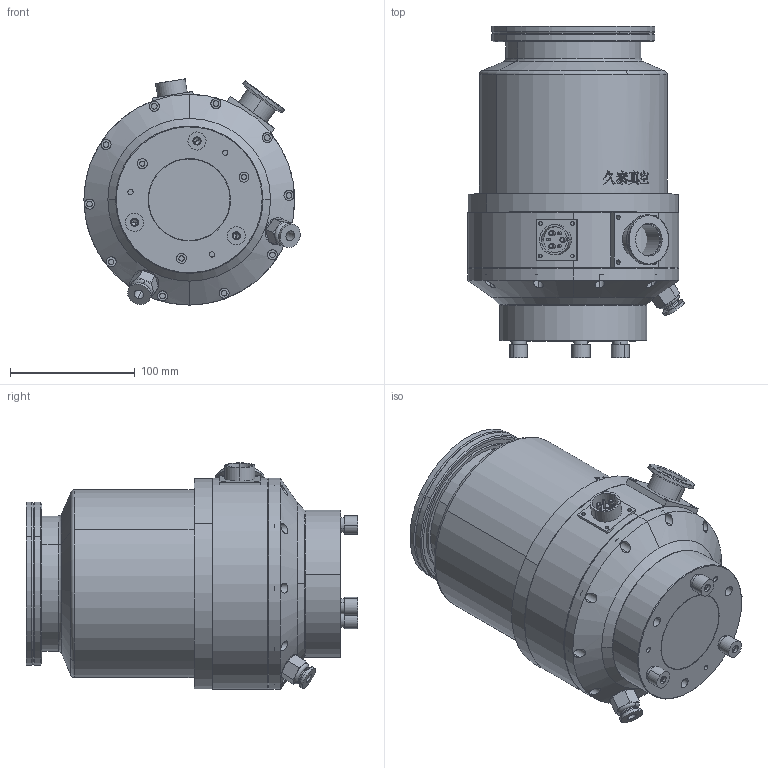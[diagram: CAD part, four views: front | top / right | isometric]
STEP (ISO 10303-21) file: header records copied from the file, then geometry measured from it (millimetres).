
FILE_DESCRIPTION (( 'STEP AP203' ), '1' );
FILE_NAME ('ISO300SJ-00WË®½º.STEP', '2025-03-29T08:16:55', ( 'User' ), ( 'China' ), 'SwSTEP 2.0', 'SolidWorks 2016', '' );
FILE_SCHEMA (( 'CONFIG_CONTROL_DESIGN' ));
Length unit declared in the file: millimetre
Products named in the file (11): JTFB300J-05-01-01B-B｣ﾗ_1; JTFB300J-05-01-00｣ﾗ_1; JTFB300J-05-00｣ﾗ_1; JTFB300-20_1_1_1; JTFB300-21_1_1_1; JTFB300-22｣ﾗ_1_1_1; JTFB300-23_1_1_1; ｵ釀ｴｽﾓﾍｷ_1_1_1; JTFB300S-03W_1_1_1; 水嘴_1_1_1; ISO300SJ-00W阨蝶
Assembly tree (15 placements, depth 4):
  ISO300SJ-00W阨蝶
    JTFB300J-05-00｣ﾗ_1
      JTFB300J-05-01-00｣ﾗ_1
        JTFB300J-05-01-01B-B｣ﾗ_1
    JTFB300-20_1_1_1  x3
    JTFB300-21_1_1_1  x3
    JTFB300-22｣ﾗ_1_1_1
    JTFB300-23_1_1_1
    ｵ釀ｴｽﾓﾍｷ_1_1_1
    JTFB300S-03W_1_1_1
    水嘴_1_1_1  x2
Bounding box: 173.39 x 265.75 x 181.41 mm (x, y, z)
Volume: 4324593.4 mm3; surface area: 270559.8 mm2
Topology: 13 solids, 13 shells, 686 faces, 1638 edges, 1064 vertices
Faces by surface type: cylinder 251, plane 202, bspline 141, cone 68, torus 24
Entity records: 48127 total; most frequent: CARTESIAN_POINT 33521, ORIENTED_EDGE 2844, DIRECTION 2552, EDGE_CURVE 1422, AXIS2_PLACEMENT_3D 1011, VERTEX_POINT 930, EDGE_LOOP 710, FACE_OUTER_BOUND 589
